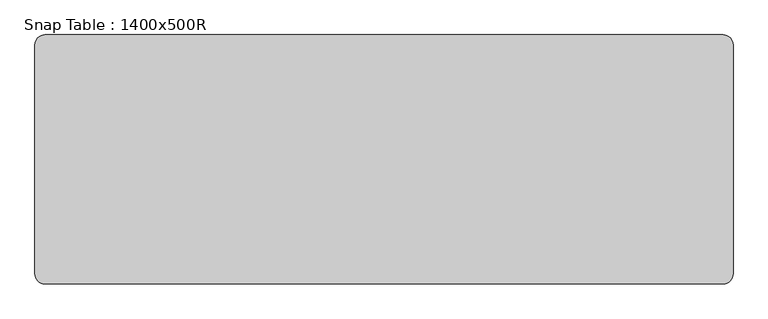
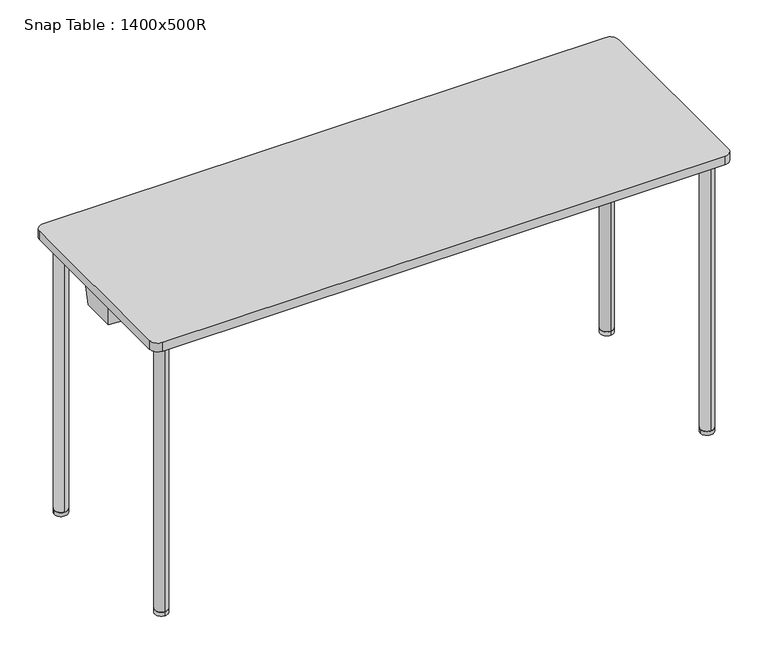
"""IFC4 building model written with IfcOpenShell, lengths in millimetres: furniture geometry, Snap Table : 1400x500R."""

from ifc_helpers import new_model, si_unit, point, frame, frame_2d, origin, origin_with_axes, place, context, project, spatial, polyline, circle_curve, ellipse_curve, trimmed, segment, composite_curve, outline, extrude, faceted_brep, source, transform, mapped, element, save
from ifc_brep_helpers import plane_surface, cylinder_surface, revolved_surface, advanced_brep


def snap_table_1400x500r_74ff989d(model_context):
    return source(origin(), model_context, "Body", "SolidModel", [
        extrude(outline(composite_curve([segment(trimmed(circle_curve(frame_2d((660.0, -210.0)), 16.0), [point((676.0, -210.0))], [point((644.0, -210.0))], False, "CARTESIAN"), True, "CONTINUOUS"), segment(trimmed(circle_curve(frame_2d((660.0, -210.0)), 16.0), [point((644.0, -210.0))], [point((676.0, -210.0))], False, "CARTESIAN"), True, "CONTINUOUS")], self_intersect=False)), origin_with_axes(), (0.0, 0.0, 1.0), 10.0),
        extrude(outline(composite_curve([segment(trimmed(circle_curve(frame_2d((660.0, 210.0)), 16.0), [point((660.0, 194.0))], [point((660.0, 226.0))], False, "CARTESIAN"), True, "CONTINUOUS"), segment(trimmed(circle_curve(frame_2d((660.0, 210.0)), 16.0), [point((660.0, 226.0))], [point((660.0, 194.0))], False, "CARTESIAN"), True, "CONTINUOUS")], self_intersect=False)), origin_with_axes(), (0.0, 0.0, 1.0), 10.0),
        advanced_brep(
        [(660.0, -226.0, 10.0), (660.0, -194.0, 10.0), (660.0, -226.0, 689.0), (660.0, -194.0, 657.0), (660.0, 226.0, 689.0), (660.0, 194.0, 657.0), (660.0, 226.0, 10.0), (660.0, 194.0, 10.0)],
        [
            (0, 1, circle_curve(frame((660.0, -210.0, 10.0), z_axis=(0.0, 0.0, -1.0), x_axis=(0.0, 1.0, 0.0)), 16.0)),
            (1, 0, circle_curve(frame((660.0, -210.0, 10.0), z_axis=(0.0, 0.0, -1.0), x_axis=(0.0, 1.0, 0.0)), 16.0)),
            (0, 2),
            (2, 3, ellipse_curve(frame((660.0, -210.0, 673.0), z_axis=(0.0, -0.7071067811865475, -0.7071067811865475), x_axis=(0.0, 0.7071067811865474, -0.7071067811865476)), 22.627417, 16.0)),
            (3, 1),
            (3, 2, ellipse_curve(frame((660.0, -210.0, 673.0), z_axis=(0.0, -0.7071067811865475, -0.7071067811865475), x_axis=(0.0, 0.7071067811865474, -0.7071067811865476)), 22.627417, 16.0)),
            (2, 4),
            (4, 5, ellipse_curve(frame((660.0, 210.0, 673.0), z_axis=(0.0, -0.7071067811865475, 0.7071067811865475), x_axis=(0.0, -0.7071067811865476, -0.7071067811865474)), 22.627417, 16.0)),
            (5, 3),
            (5, 4, ellipse_curve(frame((660.0, 210.0, 673.0), z_axis=(0.0, -0.7071067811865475, 0.7071067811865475), x_axis=(0.0, -0.7071067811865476, -0.7071067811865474)), 22.627417, 16.0)),
            (6, 7, circle_curve(frame((660.0, 210.0, 10.0), z_axis=(0.0, 0.0, -1.0), x_axis=(0.0, -1.0, 0.0)), 16.0)),
            (7, 6, circle_curve(frame((660.0, 210.0, 10.0), z_axis=(0.0, 0.0, -1.0), x_axis=(0.0, -1.0, 0.0)), 16.0)),
            (4, 6),
            (7, 5),
        ],
        [
            plane_surface(frame((660.0, -210.0, 10.0), z_axis=(0.0, 0.0, -1.0), x_axis=(-1.0, 0.0, 0.0))),
            cylinder_surface(frame((660.0, -210.0, 10.0), z_axis=(0.0, 0.0, -1.0), x_axis=(0.0, 1.0, 0.0)), 16.0),
            cylinder_surface(frame((660.0, -210.0, 673.0), z_axis=(0.0, -1.0, 0.0), x_axis=(0.0, 0.0, -1.0)), 16.0),
            plane_surface(frame((660.0, 210.0, 10.0), z_axis=(0.0, 0.0, -1.0), x_axis=(-1.0, 0.0, 0.0))),
            cylinder_surface(frame((660.0, 210.0, 673.0), z_axis=(0.0, 0.0, 1.0), x_axis=(0.0, -1.0, 0.0)), 16.0),
        ],
        [
            (0, [[1, 2]]),
            (1, [[-1, 3, 4, 5]]),
            (1, [[-2, -5, 6, -3]]),
            (2, [[-4, 7, 8, 9]]),
            (2, [[-6, -9, 10, -7]]),
            (3, [[11, 12]]),
            (4, [[-8, 13, -12, 14]]),
            (4, [[-10, -14, -11, -13]]),
        ],
    ),
        extrude(outline(composite_curve([segment(trimmed(circle_curve(frame_2d((-660.0470276, 210.0)), 16.0), [point((-676.0470276, 210.0))], [point((-644.0470276, 210.0))], False, "CARTESIAN"), True, "CONTINUOUS"), segment(trimmed(circle_curve(frame_2d((-660.0470276, 210.0)), 16.0), [point((-644.0470276, 210.0))], [point((-676.0470276, 210.0))], False, "CARTESIAN"), True, "CONTINUOUS")], self_intersect=False)), origin_with_axes(), (0.0, 0.0, 1.0), 10.0),
        extrude(outline(composite_curve([segment(trimmed(circle_curve(frame_2d((-660.0470276, -210.0)), 16.0), [point((-660.0470276, -194.0))], [point((-660.0470276, -226.0))], False, "CARTESIAN"), True, "CONTINUOUS"), segment(trimmed(circle_curve(frame_2d((-660.0470276, -210.0)), 16.0), [point((-660.0470276, -226.0))], [point((-660.0470276, -194.0))], False, "CARTESIAN"), True, "CONTINUOUS")], self_intersect=False)), origin_with_axes(), (0.0, 0.0, 1.0), 10.0),
        advanced_brep(
        [(-660.0470276, 226.0, 10.0), (-660.0470276, 194.0, 10.0), (-660.0470276, 226.0, 689.0), (-660.0470276, 194.0, 657.0), (-660.0470276, -226.0, 689.0), (-660.0470276, -194.0, 657.0), (-660.0470276, -226.0, 10.0), (-660.0470276, -194.0, 10.0)],
        [
            (0, 1, circle_curve(frame((-660.0470276, 210.0, 10.0), z_axis=(0.0, 0.0, -1.0), x_axis=(0.0, -1.0, 0.0)), 16.0)),
            (1, 0, circle_curve(frame((-660.0470276, 210.0, 10.0), z_axis=(0.0, 0.0, -1.0), x_axis=(0.0, -1.0, 0.0)), 16.0)),
            (0, 2),
            (2, 3, ellipse_curve(frame((-660.0470276, 210.0, 673.0), z_axis=(0.0, 0.7071067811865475, -0.7071067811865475), x_axis=(0.0, -0.7071067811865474, -0.7071067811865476)), 22.627417, 16.0)),
            (3, 1),
            (3, 2, ellipse_curve(frame((-660.0470276, 210.0, 673.0), z_axis=(0.0, 0.7071067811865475, -0.7071067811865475), x_axis=(0.0, -0.7071067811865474, -0.7071067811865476)), 22.627417, 16.0)),
            (2, 4),
            (4, 5, ellipse_curve(frame((-660.0470276, -210.0, 673.0), z_axis=(0.0, 0.7071067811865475, 0.7071067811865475), x_axis=(0.0, 0.7071067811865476, -0.7071067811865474)), 22.627417, 16.0)),
            (5, 3),
            (5, 4, ellipse_curve(frame((-660.0470276, -210.0, 673.0), z_axis=(0.0, 0.7071067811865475, 0.7071067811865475), x_axis=(0.0, 0.7071067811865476, -0.7071067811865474)), 22.627417, 16.0)),
            (6, 7, circle_curve(frame((-660.0470276, -210.0, 10.0), z_axis=(0.0, 0.0, -1.0), x_axis=(0.0, 1.0, 0.0)), 16.0)),
            (7, 6, circle_curve(frame((-660.0470276, -210.0, 10.0), z_axis=(0.0, 0.0, -1.0), x_axis=(0.0, 1.0, 0.0)), 16.0)),
            (4, 6),
            (7, 5),
        ],
        [
            plane_surface(frame((-660.0470276, 210.0, 10.0), z_axis=(0.0, 0.0, -1.0), x_axis=(1.0, 0.0, 0.0))),
            cylinder_surface(frame((-660.0470276, 210.0, 10.0), z_axis=(0.0, 0.0, -1.0), x_axis=(0.0, -1.0, 0.0)), 16.0),
            cylinder_surface(frame((-660.0470276, 210.0, 673.0), z_axis=(0.0, 1.0, 0.0), x_axis=(0.0, 0.0, -1.0)), 16.0),
            plane_surface(frame((-660.0470276, -210.0, 10.0), z_axis=(0.0, 0.0, -1.0), x_axis=(1.0, 0.0, 0.0))),
            cylinder_surface(frame((-660.0470276, -210.0, 673.0), z_axis=(0.0, 0.0, 1.0), x_axis=(0.0, 1.0, 0.0)), 16.0),
        ],
        [
            (0, [[1, 2]]),
            (1, [[-1, 3, 4, 5]]),
            (1, [[-2, -5, 6, -3]]),
            (2, [[-4, 7, 8, 9]]),
            (2, [[-6, -9, 10, -7]]),
            (3, [[11, 12]]),
            (4, [[-8, 13, -12, 14]]),
            (4, [[-10, -14, -11, -13]]),
        ],
    ),
        extrude(outline(composite_curve([segment(trimmed(circle_curve(frame_2d((680.0, 230.0)), 20.0), [point((680.0, 250.0))], [point((700.0, 230.0))], False, "CARTESIAN"), True, "CONTINUOUS"), segment(polyline([(700.0, 230.0), (700.0, -230.0)]), True, "CONTINUOUS"), segment(trimmed(circle_curve(frame_2d((680.0, -230.0)), 20.0), [point((700.0, -230.0))], [point((680.0, -250.0))], False, "CARTESIAN"), True, "CONTINUOUS"), segment(polyline([(680.0, -250.0), (-680.0, -250.0)]), True, "CONTINUOUS"), segment(trimmed(circle_curve(frame_2d((-680.0, -230.0)), 20.0), [point((-680.0, -250.0))], [point((-700.0, -230.0))], False, "CARTESIAN"), True, "CONTINUOUS"), segment(polyline([(-700.0, -230.0), (-700.0, 230.0)]), True, "CONTINUOUS"), segment(trimmed(circle_curve(frame_2d((-680.0, 230.0)), 20.0), [point((-700.0, 230.0))], [point((-680.0, 250.0))], False, "CARTESIAN"), True, "CONTINUOUS"), segment(polyline([(-680.0, 250.0), (680.0, 250.0)]), True, "CONTINUOUS")], self_intersect=False)), frame((0.0, 0.0, 698.0), z_axis=(0.0, 0.0, 1.0), x_axis=(1.0, 0.0, 0.0)), (0.0, 0.0, 1.0), 22.0),
        advanced_brep(
        [(-690.8110657, 42.2236058, 643.0), (-657.6910354, 44.5767873, 643.0), (-640.5708933, 36.0824003, 643.0), (640.5710292, 36.0824678, 643.0), (657.6910354, 44.5767873, 643.0), (690.8110657, 42.2236058, 643.0), (690.8110657, -42.2236058, 643.0), (657.6044607, -44.2417031, 643.0), (640.4018781, -36.0497649, 643.0), (-640.4020196, -36.0498323, 643.0), (-657.6044607, -44.2417031, 643.0), (-690.8110657, -42.2236058, 643.0), (-694.8110657, 48.9570516, 698.0), (-694.8110657, -48.9934252, 698.0), (-656.225892, -51.3383995, 698.0), (-634.6205129, -41.049832, 698.0), (634.6203726, -41.0497652, 698.0), (656.225892, -51.3383995, 698.0), (694.8110657, -48.9934252, 698.0), (694.8110657, 48.9570516, 698.0), (656.286594, 51.6942192, 698.0), (634.8989768, 41.0824675, 698.0), (-634.8988421, 41.0824006, 698.0), (-656.286594, 51.6942192, 698.0), (-657.2475737, -46.0789118, 657.2385232), (-676.0, -46.9489596, 673.0), (-656.4614069, -50.125999, 688.6037931), (-644.0, -41.9922101, 673.0), (657.2475737, -46.0789118, 657.2385232), (644.0, -41.9922101, 673.0), (656.4614069, -50.125999, 688.6037931), (676.0, -46.9489596, 673.0), (657.3278029, 46.4175782, 657.2247231), (676.0, 47.1037405, 673.0), (656.5261576, 50.4801582, 688.618336), (644.0, 42.0461233, 673.0), (-657.3278029, 46.4175782, 657.2247231), (-644.0, 42.0461233, 673.0), (-656.5261576, 50.4801582, 688.618336), (-676.0, 47.1037405, 673.0)],
        [
            (0, 1),
            (1, 2),
            (2, 3),
            (3, 4),
            (4, 5),
            (5, 6),
            (6, 7),
            (7, 8),
            (8, 9),
            (9, 10),
            (10, 11),
            (11, 0),
            (12, 13),
            (13, 14),
            (14, 15),
            (15, 16),
            (16, 17),
            (17, 18),
            (18, 19),
            (19, 20),
            (20, 21),
            (21, 22),
            (22, 23),
            (23, 12),
            (11, 13),
            (12, 0),
            (10, 24),
            (24, 25, ellipse_curve(frame((-660.0, -47.9213432, 673.0), z_axis=(0.060176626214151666, 0.9901710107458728, 0.12625427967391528), x_axis=(0.426028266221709, -0.13986196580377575, 0.8938336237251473)), 16.1588249, 16.0)),
            (25, 26, ellipse_curve(frame((-660.0, -47.9213432, 673.0), z_axis=(0.060176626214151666, 0.9901710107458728, 0.12625427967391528), x_axis=(0.426028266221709, -0.13986196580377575, 0.8938336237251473)), 16.1588249, 16.0)),
            (26, 14),
            (9, 15),
            (26, 27, ellipse_curve(frame((-660.0, -49.6114737, 673.0), z_axis=(-0.4265030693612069, 0.8956310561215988, 0.12625427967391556), x_axis=(-0.8587935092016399, -0.44479771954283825, 0.25422174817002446)), 17.8644989, 16.0)),
            (27, 24, ellipse_curve(frame((-660.0, -49.6114737, 673.0), z_axis=(-0.4265030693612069, 0.8956310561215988, 0.12625427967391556), x_axis=(-0.8587935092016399, -0.44479771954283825, 0.25422174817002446)), 17.8644989, 16.0)),
            (8, 16),
            (7, 28),
            (28, 29, ellipse_curve(frame((660.0, -49.6114737, 673.0), z_axis=(0.4265030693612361, 0.8956310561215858, 0.1262542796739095), x_axis=(0.8587935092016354, -0.4447977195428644, 0.25422174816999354)), 17.8644989, 16.0)),
            (29, 30, ellipse_curve(frame((660.0, -49.6114737, 673.0), z_axis=(0.4265030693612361, 0.8956310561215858, 0.1262542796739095), x_axis=(0.8587935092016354, -0.4447977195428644, 0.25422174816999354)), 17.8644989, 16.0)),
            (30, 17),
            (6, 18),
            (30, 31, ellipse_curve(frame((660.0, -47.9213432, 673.0), z_axis=(-0.06017662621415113, 0.9901710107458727, 0.12625427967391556), x_axis=(-0.426028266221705, -0.1398619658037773, 0.8938336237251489)), 16.1588249, 16.0)),
            (31, 28, ellipse_curve(frame((660.0, -47.9213432, 673.0), z_axis=(-0.06017662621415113, 0.9901710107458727, 0.12625427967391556), x_axis=(-0.426028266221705, -0.1398619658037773, 0.8938336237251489)), 16.1588249, 16.0)),
            (5, 19),
            (4, 32),
            (32, 33, ellipse_curve(frame((660.0, 48.2405422, 673.0), z_axis=(-0.0703043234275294, -0.9895034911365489, 0.12625427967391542), x_axis=(0.4813983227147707, -0.14450896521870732, -0.8645072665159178)), 16.1697257, 16.0)),
            (33, 34, ellipse_curve(frame((660.0, 48.2405422, 673.0), z_axis=(-0.0703043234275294, -0.9895034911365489, 0.12625427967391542), x_axis=(0.4813983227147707, -0.14450896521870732, -0.8645072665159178)), 16.1697257, 16.0)),
            (34, 20),
            (3, 21),
            (34, 35, ellipse_curve(frame((660.0, 49.9847369, 673.0), z_axis=(0.4409053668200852, -0.8886294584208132, 0.12625427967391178), x_axis=(-0.854294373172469, -0.45862586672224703, -0.24462918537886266)), 18.005255, 16.0)),
            (35, 32, ellipse_curve(frame((660.0, 49.9847369, 673.0), z_axis=(0.4409053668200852, -0.8886294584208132, 0.12625427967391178), x_axis=(-0.854294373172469, -0.45862586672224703, -0.24462918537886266)), 18.005255, 16.0)),
            (2, 22),
            (1, 36),
            (36, 37, ellipse_curve(frame((-660.0, 49.9847369, 673.0), z_axis=(-0.44090536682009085, -0.8886294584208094, 0.12625427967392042), x_axis=(0.8542943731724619, -0.45862586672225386, -0.24462918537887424)), 18.005255, 16.0)),
            (37, 38, ellipse_curve(frame((-660.0, 49.9847369, 673.0), z_axis=(-0.44090536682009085, -0.8886294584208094, 0.12625427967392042), x_axis=(0.8542943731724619, -0.45862586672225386, -0.24462918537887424)), 18.005255, 16.0)),
            (38, 23),
            (38, 39, ellipse_curve(frame((-660.0, 48.2405422, 673.0), z_axis=(0.07030432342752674, -0.9895034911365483, 0.12625427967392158), x_axis=(-0.48139832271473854, -0.14450896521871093, -0.8645072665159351)), 16.1697257, 16.0)),
            (39, 36, ellipse_curve(frame((-660.0, 48.2405422, 673.0), z_axis=(0.07030432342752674, -0.9895034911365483, 0.12625427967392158), x_axis=(-0.48139832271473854, -0.14450896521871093, -0.8645072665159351)), 16.1697257, 16.0)),
            (35, 29),
            (31, 33),
            (39, 25),
            (27, 37),
        ],
        [
            plane_surface(frame((-5e-07, 0.0612866, 643.0), z_axis=(0.0, 0.0, -1.0), x_axis=(0.0, -1.0, 0.0))),
            plane_surface(frame((-5e-07, 0.0586803, 698.0), z_axis=(0.0, 0.0, 1.0), x_axis=(0.0, -1.0, 0.0))),
            plane_surface(frame((-694.8110657, -0.0181868, 698.0), z_axis=(-0.9973658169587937, 0.0, -0.07253569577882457), x_axis=(0.0, 1.0, 0.0))),
            plane_surface(frame((-675.5184789, -50.1659123, 698.0), z_axis=(-0.060176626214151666, -0.9901710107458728, -0.12625427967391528), x_axis=(-0.9981583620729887, 0.06066204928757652, 0.0))),
            plane_surface(frame((-645.4232025, -46.1941158, 698.0), z_axis=(0.4265030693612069, -0.8956310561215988, -0.12625427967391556), x_axis=(-0.9028557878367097, -0.4299435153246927, 0.0))),
            plane_surface(frame((-7.01e-05, -41.0497986, 698.0), z_axis=(5.2413477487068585e-08, -0.9958932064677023, -0.09053574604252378), x_axis=(-0.9999999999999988, -5.262961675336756e-08, 0.0))),
            plane_surface(frame((645.4231323, -46.1940824, 698.0), z_axis=(-0.4265030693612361, -0.8956310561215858, -0.1262542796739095), x_axis=(-0.9028557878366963, 0.42994351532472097, 0.0))),
            plane_surface(frame((675.5184789, -50.1659123, 698.0), z_axis=(0.060176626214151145, -0.9901710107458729, -0.1262542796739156), x_axis=(-0.9981583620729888, -0.060662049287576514, 0.0))),
            plane_surface(frame((694.8110657, -0.0181868, 698.0), z_axis=(0.997365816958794, 0.0, -0.07253569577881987), x_axis=(0.0, -1.0, 0.0))),
            plane_surface(frame((675.5488298, 50.3256354, 698.0), z_axis=(0.0703043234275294, 0.9895034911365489, -0.12625427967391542), x_axis=(0.9974854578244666, -0.07087144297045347, 0.0))),
            plane_surface(frame((645.5927854, 46.3883433, 698.0), z_axis=(-0.4409053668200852, 0.8886294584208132, -0.12625427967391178), x_axis=(0.8957977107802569, 0.44446199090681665, 0.0))),
            plane_surface(frame((6.73e-05, 41.082434, 698.0), z_axis=(-5.2413477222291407e-08, 0.9958932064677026, -0.09053574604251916), x_axis=(0.9999999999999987, 5.2629615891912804e-08, 0.0))),
            plane_surface(frame((-645.5927181, 46.3883099, 698.0), z_axis=(0.44090536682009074, 0.8886294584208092, -0.1262542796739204), x_axis=(0.8957977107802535, -0.4444619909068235, 0.0))),
            plane_surface(frame((-675.5488298, 50.3256354, 698.0), z_axis=(-0.07030432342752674, 0.9895034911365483, -0.12625427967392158), x_axis=(0.9974854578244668, 0.07087144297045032, 0.0))),
            revolved_surface(polyline([(676.0, -57.55756207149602, 673.0), (676.0, 58.242412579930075, 673.0)]), (660.0, 70.0, 673.0), (0.0, -1.0, 0.0)),
            revolved_surface(polyline([(-676.0, -57.55756207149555, 673.0), (-676.0, 58.242412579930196, 673.0)]), (-660.0, 70.0, 673.0), (0.0, -1.0, 0.0)),
        ],
        [
            (0, [[1, 2, 3, 4, 5, 6, 7, 8, 9, 10, 11, 12]]),
            (1, [[13, 14, 15, 16, 17, 18, 19, 20, 21, 22, 23, 24]]),
            (2, [[-12, 25, -13, 26]]),
            (3, [[-11, 27, 28, 29, 30, -14, -25]]),
            (4, [[-10, 31, -15, -30, 32, 33, -27]]),
            (5, [[-9, 34, -16, -31]]),
            (6, [[-8, 35, 36, 37, 38, -17, -34]]),
            (7, [[-7, 39, -18, -38, 40, 41, -35]]),
            (8, [[-6, 42, -19, -39]]),
            (9, [[-5, 43, 44, 45, 46, -20, -42]]),
            (10, [[-4, 47, -21, -46, 48, 49, -43]]),
            (11, [[-3, 50, -22, -47]]),
            (12, [[-2, 51, 52, 53, 54, -23, -50]]),
            (13, [[-1, -26, -24, -54, 55, 56, -51]]),
            (14, [[57, -36, -41, 58, -44, -49]]),
            (14, [[-57, -48, -45, -58, -40, -37]]),
            (15, [[59, -28, -33, 60, -52, -56]]),
            (15, [[-59, -55, -53, -60, -32, -29]]),
        ],
    ),
        faceted_brep([(630.1271057, 132.1409864, 643.0), (630.1271057, 177.0366315, 643.0), (641.3990784, 177.0366315, 643.0), (641.3990784, 132.1409864, 643.0), (626.2186584, 128.0138349, 688.0), (644.2631531, 128.0138349, 688.0), (644.2631531, 181.163783, 688.0), (626.2186584, 181.163783, 688.0)], [[[0, 1, 2, 3]], [[4, 5, 6, 7]], [[5, 4, 0, 3]], [[6, 5, 3, 2]], [[7, 6, 2, 1]], [[4, 7, 1, 0]]]),
        extrude(outline(polyline([(626.2186584, 181.163783), (677.86026, 181.163783), (677.86026, 128.0138349), (626.2186584, 128.0138349), (626.2186584, 181.163783)])), frame((0.0, 0.0, 688.0), z_axis=(0.0, 0.0, 1.0), x_axis=(1.0, 0.0, 0.0)), (0.0, 0.0, 1.0), 10.0),
        faceted_brep([(630.1271057, -132.1409864, 643.0), (641.3990784, -132.1409864, 643.0), (641.3990784, -177.0366315, 643.0), (630.1271057, -177.0366315, 643.0), (626.2186584, -128.0138349, 688.0), (626.2186584, -181.163783, 688.0), (644.2631531, -181.163783, 688.0), (644.2631531, -128.0138349, 688.0)], [[[0, 1, 2, 3]], [[4, 5, 6, 7]], [[4, 7, 1, 0]], [[7, 6, 2, 1]], [[6, 5, 3, 2]], [[5, 4, 0, 3]]]),
        extrude(outline(polyline([(626.2186584, -181.163783), (626.2186584, -128.0138349), (677.86026, -128.0138349), (677.86026, -181.163783), (626.2186584, -181.163783)])), frame((0.0, 0.0, 688.0), z_axis=(0.0, 0.0, 1.0), x_axis=(1.0, 0.0, 0.0)), (0.0, 0.0, 1.0), 10.0),
        faceted_brep([(-630.1271057, 132.1409864, 643.0), (-641.3990784, 132.1409864, 643.0), (-641.3990784, 177.0366315, 643.0), (-630.1271057, 177.0366315, 643.0), (-626.2186584, 128.0138349, 688.0), (-626.2186584, 181.163783, 688.0), (-644.2631531, 181.163783, 688.0), (-644.2631531, 128.0138349, 688.0)], [[[0, 1, 2, 3]], [[4, 5, 6, 7]], [[4, 7, 1, 0]], [[7, 6, 2, 1]], [[6, 5, 3, 2]], [[5, 4, 0, 3]]]),
        extrude(outline(polyline([(-626.2186584, 181.163783), (-626.2186584, 128.0138349), (-677.86026, 128.0138349), (-677.86026, 181.163783), (-626.2186584, 181.163783)])), frame((0.0, 0.0, 688.0), z_axis=(0.0, 0.0, 1.0), x_axis=(1.0, 0.0, 0.0)), (0.0, 0.0, 1.0), 10.0),
        faceted_brep([(-630.1271057, -132.1409864, 643.0), (-630.1271057, -177.0366315, 643.0), (-641.3990784, -177.0366315, 643.0), (-641.3990784, -132.1409864, 643.0), (-626.2186584, -128.0138349, 688.0), (-644.2631531, -128.0138349, 688.0), (-644.2631531, -181.163783, 688.0), (-626.2186584, -181.163783, 688.0)], [[[0, 1, 2, 3]], [[4, 5, 6, 7]], [[5, 4, 0, 3]], [[6, 5, 3, 2]], [[7, 6, 2, 1]], [[4, 7, 1, 0]]]),
        extrude(outline(polyline([(-626.2186584, -181.163783), (-677.86026, -181.163783), (-677.86026, -128.0138349), (-626.2186584, -128.0138349), (-626.2186584, -181.163783)])), frame((0.0, 0.0, 688.0), z_axis=(0.0, 0.0, 1.0), x_axis=(1.0, 0.0, 0.0)), (0.0, 0.0, 1.0), 10.0),
    ])


if __name__ == "__main__":
    model = new_model("IFC4")
    model_context = context("Model", 3, world=origin())
    ifc_project = project(units=[si_unit("LENGTHUNIT", "METRE", prefix="MILLI")], contexts=[model_context])
    site = spatial("IfcSite", under=ifc_project)
    building = spatial("IfcBuilding", under=site)
    placement = place(None, origin())
    snap_table_1400x500r_shape = snap_table_1400x500r_74ff989d(model_context)
    element("IfcFurniture", 1, ObjectType="Snap Table : 1400x500R", at=placement, inside=building, context=model_context, shape_type="MappedRepresentation", body=[
        mapped(snap_table_1400x500r_shape, transform((0.0, 0.0, 0.0), x_axis=(1.0, 0.0, 0.0), y_axis=(0.0, 1.0, 0.0), z_axis=(0.0, 0.0, 1.0))),
    ])
    save(model, "model.ifc")
